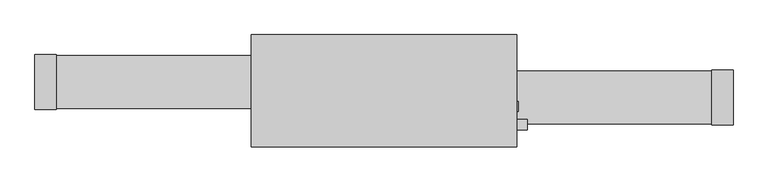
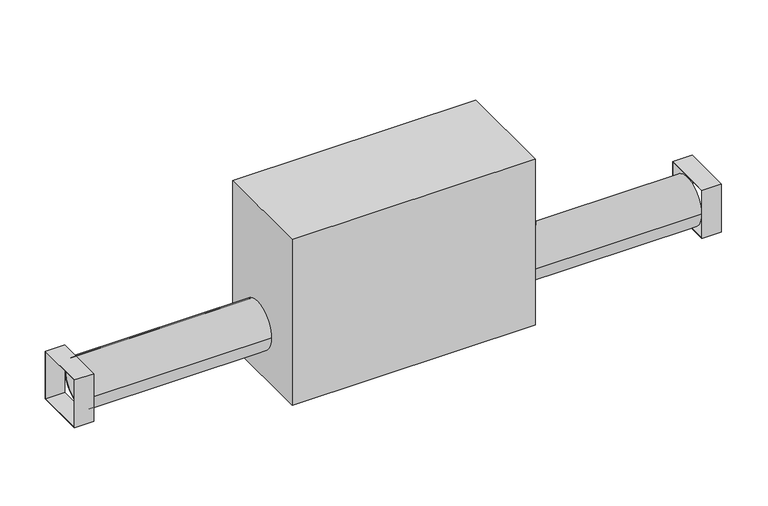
"""IFC4 building model written with IfcOpenShell, lengths in millimetres: proxy geometry, Energy_Recovery_Ventilator_ERVH100SE : ERVH100SE."""

import ifcopenshell
import ifcopenshell.guid

model = None  # the IFC model being written
_history = None  # IfcOwnerHistory: only IFC2X3 demands one
_inside = {}  # id of a spatial element -> (the spatial element, [elements in it])
_under = {}  # id of a project, library or spatial element -> (it, [spatial elements below it])
_declared = {}  # id of a project -> (the project, [libraries it declares])
_typed = {}  # id of a type object -> (the type object, [elements of that type])
_made_of = {}  # id of a material, layer set ... -> (it, [elements and type objects made of it])


def new_model(schema):
    """Start an empty IFC model of exactly this schema.

    Asked for "IFC4X3", IfcOpenShell would pick the latest addendum, in which some entities
    have other attributes; the version numbers below select the first issue.
    IFC2X3 requires an IfcOwnerHistory on every rooted entity: one is made here for all.
    """
    global model, _history
    if schema == "IFC4X3":
        model = ifcopenshell.file(schema_version=(4, 3, 0, 0))
    else:
        model = ifcopenshell.file(schema=schema)
    _inside.clear()
    _under.clear()
    _declared.clear()
    _typed.clear()
    _made_of.clear()
    _history = None
    if model.schema == "IFC2X3":
        org = make("IfcOrganization", Name="unknown")
        user = make(
            "IfcPersonAndOrganization",
            ThePerson=make("IfcPerson", FamilyName="unknown"),
            TheOrganization=org,
        )
        app = make(
            "IfcApplication",
            ApplicationDeveloper=org,
            Version="unknown",
            ApplicationFullName="unknown",
            ApplicationIdentifier="unknown",
        )
        _history = make(
            "IfcOwnerHistory",
            OwningUser=user,
            OwningApplication=app,
            ChangeAction="ADDED",
            CreationDate=0,
        )
    return model


def make(cls, **values):
    """One entity of the class cls with the attributes given. An attribute that is None is left unset."""
    return model.create_entity(
        cls, **{name: value for name, value in values.items() if value is not None}
    )


def rooted(cls, **values):
    """An entity with a GlobalId (a new one), such as an element, a storey or a relation."""
    return make(cls, GlobalId=ifcopenshell.guid.new(), OwnerHistory=_history, **values)


def si_unit(unit_type, name, prefix=None):
    """IfcSIUnit, for example si_unit("LENGTHUNIT", "METRE", prefix="MILLI")."""
    return make("IfcSIUnit", UnitType=unit_type, Prefix=prefix, Name=name)


def assignment(units):
    """IfcUnitAssignment: the units of a project."""
    return None if units is None else make("IfcUnitAssignment", Units=units)


def point(xyz):
    """IfcCartesianPoint."""
    return None if xyz is None else make("IfcCartesianPoint", Coordinates=xyz)


def direction(xyz):
    """IfcDirection."""
    return None if xyz is None else make("IfcDirection", DirectionRatios=xyz)


def frame(location, z_axis=None, x_axis=None):
    """IfcAxis2Placement3D, a coordinate frame: its origin and axes. An axis left out is left unset."""
    return make(
        "IfcAxis2Placement3D",
        Location=point(location),
        Axis=direction(z_axis),
        RefDirection=direction(x_axis),
    )


def frame_2d(location, x_axis=None):
    """IfcAxis2Placement2D, a coordinate frame in the plane: its origin and x axis."""
    return make(
        "IfcAxis2Placement2D", Location=point(location), RefDirection=direction(x_axis)
    )


def origin():
    """The frame at (0, 0, 0) with its axes left unset."""
    return frame((0.0, 0.0, 0.0))


def origin_with_axes():
    """The frame at (0, 0, 0) with the z axis (0, 0, 1) and the x axis (1, 0, 0) written out."""
    return frame((0.0, 0.0, 0.0), z_axis=(0.0, 0.0, 1.0), x_axis=(1.0, 0.0, 0.0))


def place(relative_to, where):
    """IfcLocalPlacement: puts the frame where relative to a parent placement (None: the world)."""
    return make(
        "IfcLocalPlacement", PlacementRelTo=relative_to, RelativePlacement=where
    )


def context(
    kind, dimensions, precision=None, world=None, true_north=None, identifier=None
):
    """IfcGeometricRepresentationContext, for example the 3D "Model" context."""
    return make(
        "IfcGeometricRepresentationContext",
        ContextIdentifier=identifier,
        ContextType=kind,
        CoordinateSpaceDimension=dimensions,
        Precision=precision,
        WorldCoordinateSystem=world,
        TrueNorth=true_north,
    )


def project(units=None, contexts=None):
    """IfcProject with its units and contexts."""
    return rooted(
        "IfcProject",
        Name="project",
        RepresentationContexts=contexts,
        UnitsInContext=assignment(units),
    )


def spatial(cls, under=None, at=None, **own):
    """A site, building, storey or space (cls), placed at a placement, below another one or the project."""
    s = rooted(cls, ObjectPlacement=at, **own)
    if under is not None:
        _under.setdefault(under.id(), (under, []))[1].append(s)
    return s


def polyline(points):
    """IfcPolyline through the points."""
    return make("IfcPolyline", Points=[point(p) for p in points])


def circle_curve(where, radius):
    """IfcCircle in the frame where."""
    return make("IfcCircle", Position=where, Radius=radius)


def trimmed(basis, trim1, trim2, sense, master):
    """IfcTrimmedCurve: the piece of a basis curve between two trims."""
    return make(
        "IfcTrimmedCurve",
        BasisCurve=basis,
        Trim1=trim1,
        Trim2=trim2,
        SenseAgreement=sense,
        MasterRepresentation=master,
    )


def segment(curve, same_sense, transition):
    """IfcCompositeCurveSegment."""
    return make(
        "IfcCompositeCurveSegment",
        Transition=transition,
        SameSense=same_sense,
        ParentCurve=curve,
    )


def composite_curve(segments, self_intersect=None):
    """IfcCompositeCurve: segments joined end to end."""
    return make("IfcCompositeCurve", Segments=segments, SelfIntersect=self_intersect)


def outline(outer, holes=None, kind="AREA"):
    """IfcArbitraryClosedProfileDef: a profile drawn as a closed curve; with holes, ...WithVoids."""
    if holes is None:
        return make("IfcArbitraryClosedProfileDef", ProfileType=kind, OuterCurve=outer)
    return make(
        "IfcArbitraryProfileDefWithVoids",
        ProfileType=kind,
        OuterCurve=outer,
        InnerCurves=holes,
    )


def extrude(swept, where, along, depth):
    """IfcExtrudedAreaSolid: the profile swept, set in the frame where, extruded along a direction by depth."""
    return make(
        "IfcExtrudedAreaSolid",
        SweptArea=swept,
        Position=where,
        ExtrudedDirection=direction(along),
        Depth=depth,
    )


def shape(context_of_items, identifier, shape_type, items):
    """IfcShapeRepresentation: the items that make up one representation, for example the "Body"."""
    return make(
        "IfcShapeRepresentation",
        ContextOfItems=context_of_items,
        RepresentationIdentifier=identifier,
        RepresentationType=shape_type,
        Items=items,
    )


def source(mapping_origin, context_of_items, identifier, shape_type, items):
    """IfcRepresentationMap: a shape defined once, which mapped items show again and again."""
    return make(
        "IfcRepresentationMap",
        MappingOrigin=mapping_origin,
        MappedRepresentation=shape(context_of_items, identifier, shape_type, items),
    )


def transform(
    local_origin,
    x_axis=None,
    y_axis=None,
    z_axis=None,
    scale=None,
    scale2=None,
    scale3=None,
    uniform=True,
):
    """IfcCartesianTransformationOperator3D, or its non-uniform kind. x_axis, y_axis, z_axis: its Axis1, 2, 3."""
    if uniform:
        return make(
            "IfcCartesianTransformationOperator3D",
            Axis1=direction(x_axis),
            Axis2=direction(y_axis),
            LocalOrigin=point(local_origin),
            Scale=scale,
            Axis3=direction(z_axis),
        )
    return make(
        "IfcCartesianTransformationOperator3DnonUniform",
        Axis1=direction(x_axis),
        Axis2=direction(y_axis),
        LocalOrigin=point(local_origin),
        Scale=scale,
        Axis3=direction(z_axis),
        Scale2=scale2,
        Scale3=scale3,
    )


def mapped(mapping_source, mapping_target):
    """IfcMappedItem: shows the shape of a source again, moved by a transform."""
    return make(
        "IfcMappedItem", MappingSource=mapping_source, MappingTarget=mapping_target
    )


def made_of(thing, what):
    """Note that an element or type object is made of a material, layer set ...; save() writes the relation."""
    if what is not None:
        _made_of.setdefault(what.id(), (what, []))[1].append(thing)
    return thing


def element(
    cls,
    number,
    at=None,
    inside=None,
    cuts=None,
    type_object=None,
    material=None,
    context=None,
    identifier="Body",
    shape_type=None,
    held_by="IfcProductDefinitionShape",
    body=None,
    shapes=None,
    **own,
):
    """One element of the class cls, such as IfcWall. Its Tag is "e" and its number.

    at: its placement. inside: the storey or other place that contains it. cuts: it is an
    opening in that element (IfcRelVoidsElement). A single representation is given by context,
    identifier, shape_type and body (its items); several are given by shapes. held_by: the class
    of the entity that holds the representations. save() writes the other relations.
    """
    e = rooted(cls, Tag="e%d" % number, ObjectPlacement=at, **own)
    if body is not None:
        shapes = [shape(context, identifier, shape_type, body)]
    if shapes is not None:
        e.Representation = make(held_by, Representations=shapes)
    if inside is not None:
        _inside.setdefault(inside.id(), (inside, []))[1].append(e)
    if cuts is not None:
        rooted(
            "IfcRelVoidsElement", RelatingBuildingElement=cuts, RelatedOpeningElement=e
        )
    if type_object is not None:
        _typed.setdefault(type_object.id(), (type_object, []))[1].append(e)
    return made_of(e, material)


def aggregate(whole, parts):
    """IfcRelAggregates: a whole, such as a stair, and the parts it consists of."""
    return rooted("IfcRelAggregates", RelatingObject=whole, RelatedObjects=parts)


def save(model, path):
    """Write the relations noted so far, then the file.

    IfcRelAggregates (storeys below a building ...), IfcRelContainedInSpatialStructure (elements
    in a storey), IfcRelDefinesByType, IfcRelAssociatesMaterial and IfcRelDeclares: one each for
    every whole, place, type object, material and project.
    """
    for whole, parts in _under.values():
        aggregate(whole, parts)
    for where, things in _inside.values():
        rooted(
            "IfcRelContainedInSpatialStructure",
            RelatedElements=things,
            RelatingStructure=where,
        )
    for kind, things in _typed.values():
        rooted("IfcRelDefinesByType", RelatedObjects=things, RelatingType=kind)
    for what, things in _made_of.values():
        rooted("IfcRelAssociatesMaterial", RelatedObjects=things, RelatingMaterial=what)
    for by, libraries in _declared.values():
        rooted("IfcRelDeclares", RelatingContext=by, RelatedDefinitions=libraries)
    model.write(path)


def mechanical_equipment_ff092b0d(model_context):
    return source(origin(), model_context, "Body", "SweptSolid", [
        extrude(outline(polyline([(322.0, 109.3864112), (322.0, 86.0184112), (319.0, 86.0184112), (319.0, 109.3864112), (322.0, 109.3864112)])), frame((0.0, 0.0, 221.9735293), z_axis=(0.0, 0.0, 1.0), x_axis=(1.0, 0.0, 0.0)), (0.0, 0.0, 1.0), 53.848),
        extrude(outline(composite_curve([segment(trimmed(circle_curve(frame_2d((53.2279155, 248.6240154)), 12.7), [point((65.9279155, 248.6240154))], [point((40.5279155, 248.6240154))], False, "CARTESIAN"), True, "CONTINUOUS"), segment(trimmed(circle_curve(frame_2d((53.2279155, 248.6240154)), 12.7), [point((40.5279155, 248.6240154))], [point((65.9279155, 248.6240154))], False, "CARTESIAN"), True, "CONTINUOUS")], self_intersect=False)), frame((319.0, 0.0, 0.0), z_axis=(1.0, 0.0, 0.0), x_axis=(0.0, 1.0, 0.0)), (0.0, 0.0, 1.0), 25.0),
        extrude(outline(polyline([(222.8490585, 197.4562165), (222.8490585, 64.9646922), (90.3575342, 64.9646922), (90.3575342, 197.4562165), (222.8490585, 197.4562165)]), holes=[polyline([(91.6347836, 66.3693821), (221.5718092, 66.3693821), (221.5718092, 196.1789672), (91.6347836, 196.1789672), (91.6347836, 66.3693821)])]), frame((-838.0, 0.0, 0.0), z_axis=(1.0, 0.0, 0.0), x_axis=(0.0, 1.0, 0.0)), (0.0, 0.0, 1.0), 51.0),
        extrude(outline(polyline([(185.4705923, 177.1362165), (185.4705923, 44.6446922), (52.979068, 44.6446922), (52.979068, 177.1362165), (185.4705923, 177.1362165)]), holes=[polyline([(184.193343, 175.8589669), (54.2563176, 175.8589669), (54.2563176, 46.0493821), (184.193343, 46.0493821), (184.193343, 175.8589669)])]), frame((787.0, 0.0, 0.0), z_axis=(1.0, 0.0, 0.0), x_axis=(0.0, 1.0, 0.0)), (0.0, 0.0, 1.0), 51.0),
        extrude(outline(composite_curve([segment(trimmed(circle_curve(frame_2d((156.7656258, 131.048125)), 63.5), [point((93.2656258, 131.048125))], [point((220.2656258, 131.048125))], False, "CARTESIAN"), True, "CONTINUOUS"), segment(trimmed(circle_curve(frame_2d((156.7656258, 131.048125)), 63.5), [point((220.2656258, 131.048125))], [point((93.2656258, 131.048125))], False, "CARTESIAN"), True, "CONTINUOUS")], self_intersect=False), holes=[composite_curve([segment(trimmed(circle_curve(frame_2d((156.7656258, 131.048125)), 60.5), [point((96.2656258, 131.048125))], [point((217.2656258, 131.048125))], True, "CARTESIAN"), True, "CONTINUOUS"), segment(trimmed(circle_curve(frame_2d((156.7656258, 131.048125)), 60.5), [point((217.2656258, 131.048125))], [point((96.2656258, 131.048125))], True, "CARTESIAN"), True, "CONTINUOUS")], self_intersect=False)]), frame((-787.0, 0.0, 0.0), z_axis=(1.0, 0.0, 0.0), x_axis=(0.0, 1.0, 0.0)), (0.0, 0.0, 1.0), 468.0),
        extrude(outline(composite_curve([segment(trimmed(circle_curve(frame_2d((119.0625008, 110.728125)), 63.5), [point((182.5625008, 110.728125))], [point((55.5625008, 110.728125))], False, "CARTESIAN"), True, "CONTINUOUS"), segment(trimmed(circle_curve(frame_2d((119.0625008, 110.728125)), 63.5), [point((55.5625008, 110.728125))], [point((182.5625008, 110.728125))], False, "CARTESIAN"), True, "CONTINUOUS")], self_intersect=False), holes=[composite_curve([segment(trimmed(circle_curve(frame_2d((119.0625008, 110.728125)), 60.2976031), [point((179.3601038, 110.728125))], [point((58.7648977, 110.728125))], True, "CARTESIAN"), True, "CONTINUOUS"), segment(trimmed(circle_curve(frame_2d((119.0625008, 110.728125)), 60.2976031), [point((58.7648977, 110.728125))], [point((179.3601038, 110.728125))], True, "CARTESIAN"), True, "CONTINUOUS")], self_intersect=False)]), frame((319.0, 0.0, 0.0), z_axis=(1.0, 0.0, 0.0), x_axis=(0.0, 1.0, 0.0)), (0.0, 0.0, 1.0), 468.0),
        extrude(outline(polyline([(319.0875, 269.8750008), (319.0875, 0.0), (-319.0875, 0.0), (-319.0875, 269.8750008), (319.0875, 269.8750008)])), origin_with_axes(), (0.0, 0.0, 1.0), 460.362307),
    ])


if __name__ == "__main__":
    model = new_model("IFC4")
    model_context = context("Model", 3, world=origin())
    ifc_project = project(units=[si_unit("LENGTHUNIT", "METRE", prefix="MILLI")], contexts=[model_context])
    site = spatial("IfcSite", under=ifc_project)
    building = spatial("IfcBuilding", under=site)
    placement = place(None, origin())
    mechanical_equipment_shape = mechanical_equipment_ff092b0d(model_context)
    element("IfcBuildingElementProxy", 1, Name="Energy_Recovery_Ventilator_ERVH100SE : ERVH100SE", ObjectType="Energy_Recovery_Ventilator_ERVH100SE : ERVH100SE", at=placement, inside=building, context=model_context, shape_type="MappedRepresentation", body=[
        mapped(mechanical_equipment_shape, transform((0.0, 0.0, 0.0), x_axis=(1.0, 0.0, 0.0), y_axis=(0.0, 1.0, 0.0), z_axis=(0.0, 0.0, 1.0))),
    ])
    save(model, "model.ifc")
